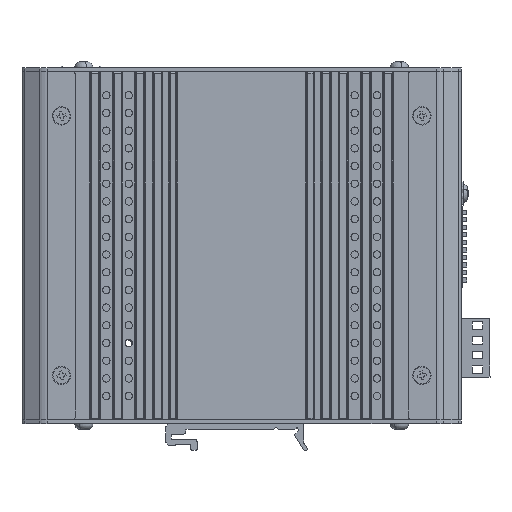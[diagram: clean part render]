
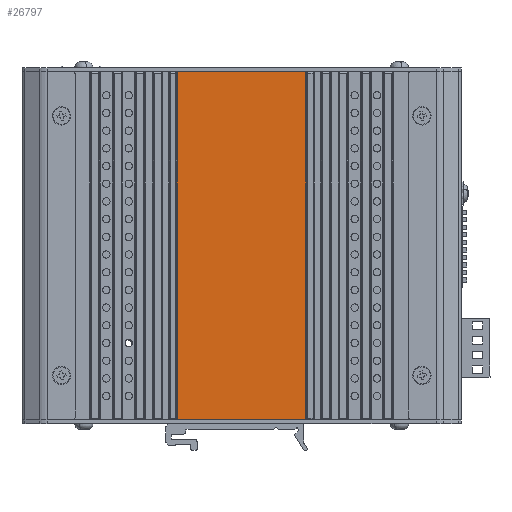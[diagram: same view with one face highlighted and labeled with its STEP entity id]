
A CAD part, left-side view. The second image highlights one B-rep face of the part: STEP entity #26797.
In plain terms, the highlighted planar face has unit normal (-1, 0, 0) as drawn and (1, 0, 0) by its records, which use the part's own axes.
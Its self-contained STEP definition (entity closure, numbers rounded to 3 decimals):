
#2357 = PLANE ( 'NONE',  #21241 ) ;
#2979 = EDGE_CURVE ( 'NONE', #25609, #24511, #42937, .T. ) ;
#6265 = DIRECTION ( 'NONE',  ( 0., 0., 1. ) ) ;
#8557 = VECTOR ( 'NONE', #27575, 1000. ) ;
#8766 = EDGE_CURVE ( 'NONE', #44611, #19687, #19612, .T. ) ;
#8824 = LINE ( 'NONE', #27862, #46591 ) ;
#8994 = ORIENTED_EDGE ( 'NONE', *, *, #8766, .F. ) ;
#9225 = EDGE_CURVE ( 'NONE', #25609, #44611, #8824, .T. ) ;
#9274 = ORIENTED_EDGE ( 'NONE', *, *, #9527, .T. ) ;
#9527 = EDGE_CURVE ( 'NONE', #24511, #19687, #13368, .T. ) ;
#12169 = CARTESIAN_POINT ( 'NONE',  ( 2.5, -21.8, 59. ) ) ;
#13368 = LINE ( 'NONE', #42776, #29096 ) ;
#13494 = CARTESIAN_POINT ( 'NONE',  ( 2.5, 21.8, 59. ) ) ;
#15992 = CARTESIAN_POINT ( 'NONE',  ( 2.5, -21.8, 59. ) ) ;
#17759 = DIRECTION ( 'NONE',  ( 0., 1., 0. ) ) ;
#19612 = LINE ( 'NONE', #38161, #21881 ) ;
#19687 = VERTEX_POINT ( 'NONE', #34802 ) ;
#21241 = AXIS2_PLACEMENT_3D ( 'NONE', #15992, #41175, #6265 ) ;
#21881 = VECTOR ( 'NONE', #41457, 1000. ) ;
#22383 = ORIENTED_EDGE ( 'NONE', *, *, #2979, .T. ) ;
#23828 = ORIENTED_EDGE ( 'NONE', *, *, #9225, .F. ) ;
#24511 = VERTEX_POINT ( 'NONE', #46344 ) ;
#25609 = VERTEX_POINT ( 'NONE', #12169 ) ;
#26797 = ADVANCED_FACE ( 'NONE', ( #44497 ), #2357, .F. ) ;
#27239 = DIRECTION ( 'NONE',  ( 0., 1., 0. ) ) ;
#27575 = DIRECTION ( 'NONE',  ( 0., 0., -1. ) ) ;
#27862 = CARTESIAN_POINT ( 'NONE',  ( 2.5, -21.8, 59. ) ) ;
#29096 = VECTOR ( 'NONE', #17759, 1000. ) ;
#31197 = CARTESIAN_POINT ( 'NONE',  ( 2.5, -21.8, 59. ) ) ;
#34802 = CARTESIAN_POINT ( 'NONE',  ( 2.5, 21.8, -59. ) ) ;
#38161 = CARTESIAN_POINT ( 'NONE',  ( 2.5, 21.8, 59. ) ) ;
#41175 = DIRECTION ( 'NONE',  ( -1., 0., 0. ) ) ;
#41457 = DIRECTION ( 'NONE',  ( 0., 0., -1. ) ) ;
#42681 = EDGE_LOOP ( 'NONE', ( #9274, #8994, #23828, #22383 ) ) ;
#42776 = CARTESIAN_POINT ( 'NONE',  ( 2.5, -21.8, -59. ) ) ;
#42937 = LINE ( 'NONE', #31197, #8557 ) ;
#44497 = FACE_OUTER_BOUND ( 'NONE', #42681, .T. ) ;
#44611 = VERTEX_POINT ( 'NONE', #13494 ) ;
#46344 = CARTESIAN_POINT ( 'NONE',  ( 2.5, -21.8, -59. ) ) ;
#46591 = VECTOR ( 'NONE', #27239, 1000. ) ;
